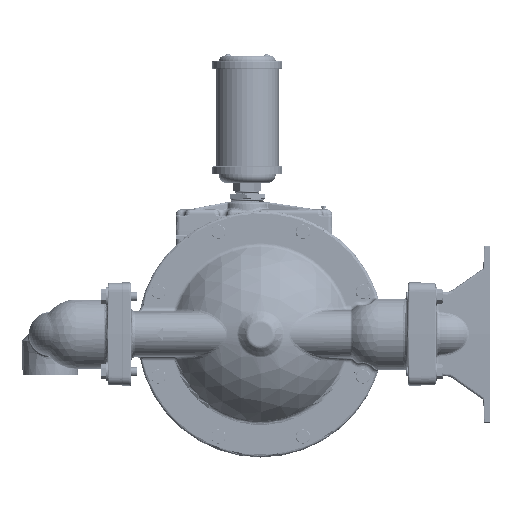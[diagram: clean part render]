
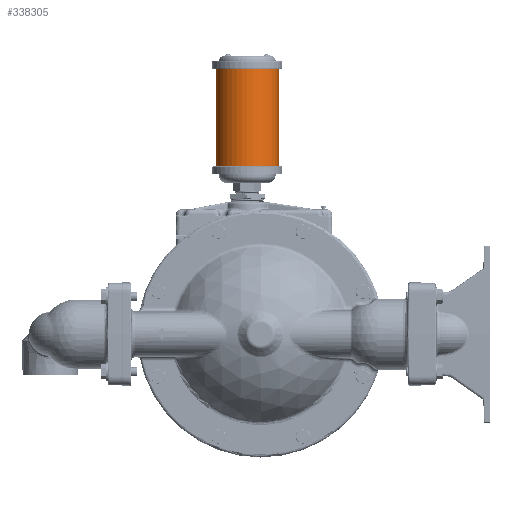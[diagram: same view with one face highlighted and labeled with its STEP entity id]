
A CAD part, left-side view. The second image highlights one B-rep face of the part: STEP entity #338305.
In plain terms, the highlighted cylindrical face has radius 45.339 mm (diameter 90.678 mm), a partial arc.
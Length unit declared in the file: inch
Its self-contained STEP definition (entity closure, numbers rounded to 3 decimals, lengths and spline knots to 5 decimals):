
#40230 = CARTESIAN_POINT ( 'NONE',  ( 0., -1.035, 9.46 ) ) ;
#46616 = DIRECTION ( 'NONE',  ( 0., -1., 0. ) ) ;
#46654 = VERTEX_POINT ( 'NONE', #221122 ) ;
#75441 = EDGE_CURVE ( 'NONE', #134913, #609182, #497532, .T. ) ;
#91717 = AXIS2_PLACEMENT_3D ( 'NONE', #596285, #542546, #340814 ) ;
#97618 = DIRECTION ( 'NONE',  ( 0., 0., 1. ) ) ;
#134913 = VERTEX_POINT ( 'NONE', #421534 ) ;
#144688 = EDGE_CURVE ( 'NONE', #46654, #134913, #349254, .T. ) ;
#151036 = CARTESIAN_POINT ( 'NONE',  ( 0., -1.035, 14.96 ) ) ;
#190495 = ORIENTED_EDGE ( 'NONE', *, *, #75441, .T. ) ;
#192047 = ORIENTED_EDGE ( 'NONE', *, *, #144688, .T. ) ;
#201007 = VERTEX_POINT ( 'NONE', #332198 ) ;
#207887 = DIRECTION ( 'NONE',  ( 0., 0., -1. ) ) ;
#209284 = ORIENTED_EDGE ( 'NONE', *, *, #276436, .F. ) ;
#221122 = CARTESIAN_POINT ( 'NONE',  ( 0., 2.535, 9.46 ) ) ;
#242901 = EDGE_CURVE ( 'NONE', #201007, #609182, #510756, .T. ) ;
#254968 = CYLINDRICAL_SURFACE ( 'NONE', #412568, 1.785 ) ;
#258281 = CARTESIAN_POINT ( 'NONE',  ( 0., 0.75, 16.069 ) ) ;
#267868 = EDGE_LOOP ( 'NONE', ( #192047, #190495, #467204, #209284 ) ) ;
#276436 = EDGE_CURVE ( 'NONE', #46654, #201007, #499834, .T. ) ;
#294760 = DIRECTION ( 'NONE',  ( 0., 0., 1. ) ) ;
#302784 = DIRECTION ( 'NONE',  ( 0., 1., 0. ) ) ;
#306053 = AXIS2_PLACEMENT_3D ( 'NONE', #558242, #97618, #302784 ) ;
#332198 = CARTESIAN_POINT ( 'NONE',  ( 0., 2.535, 14.96 ) ) ;
#338305 = ADVANCED_FACE ( 'NONE', ( #355862 ), #254968, .T. ) ;
#340814 = DIRECTION ( 'NONE',  ( 0., 1., 0. ) ) ;
#349254 = CIRCLE ( 'NONE', #306053, 1.785 ) ;
#355862 = FACE_OUTER_BOUND ( 'NONE', #267868, .T. ) ;
#412568 = AXIS2_PLACEMENT_3D ( 'NONE', #258281, #207887, #46616 ) ;
#421534 = CARTESIAN_POINT ( 'NONE',  ( 0., -1.035, 9.46 ) ) ;
#436603 = VECTOR ( 'NONE', #294760, 39.37008 ) ;
#443779 = DIRECTION ( 'NONE',  ( 0., 0., 1. ) ) ;
#467204 = ORIENTED_EDGE ( 'NONE', *, *, #242901, .F. ) ;
#497532 = LINE ( 'NONE', #40230, #577996 ) ;
#499834 = LINE ( 'NONE', #553550, #436603 ) ;
#510756 = CIRCLE ( 'NONE', #91717, 1.785 ) ;
#542546 = DIRECTION ( 'NONE',  ( 0., 0., 1. ) ) ;
#553550 = CARTESIAN_POINT ( 'NONE',  ( 0., 2.535, 9.46 ) ) ;
#558242 = CARTESIAN_POINT ( 'NONE',  ( 0., 0.75, 9.46 ) ) ;
#577996 = VECTOR ( 'NONE', #443779, 39.37008 ) ;
#596285 = CARTESIAN_POINT ( 'NONE',  ( 0., 0.75, 14.96 ) ) ;
#609182 = VERTEX_POINT ( 'NONE', #151036 ) ;
